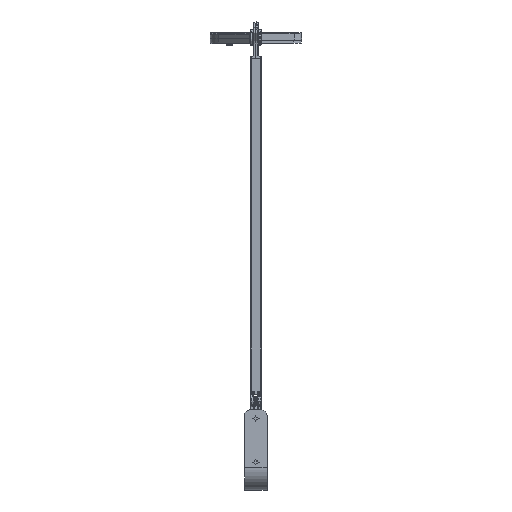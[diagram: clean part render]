
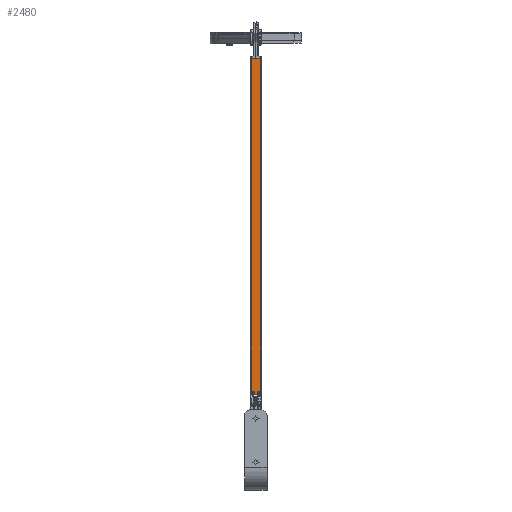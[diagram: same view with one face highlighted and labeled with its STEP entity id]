
A CAD part, left-side view. The second image highlights one B-rep face of the part: STEP entity #2480.
In plain terms, the highlighted planar face has unit normal (-1, 0, 0).
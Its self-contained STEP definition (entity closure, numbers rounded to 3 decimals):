
#2480=ADVANCED_FACE('',(#5186),#38520,.T.);
#5186=FACE_OUTER_BOUND('',#8088,.T.);
#8088=EDGE_LOOP('',(#18042,#18043,#18044,#18045));
#18042=ORIENTED_EDGE('',*,*,#26023,.F.);
#18043=ORIENTED_EDGE('',*,*,#26007,.F.);
#18044=ORIENTED_EDGE('',*,*,#26024,.F.);
#18045=ORIENTED_EDGE('',*,*,#26015,.T.);
#26007=EDGE_CURVE('',#36845,#36846,#30747,.T.);
#26015=EDGE_CURVE('',#36853,#36854,#30755,.T.);
#26023=EDGE_CURVE('',#36846,#36854,#30763,.T.);
#26024=EDGE_CURVE('',#36853,#36845,#30764,.T.);
#30747=B_SPLINE_CURVE_WITH_KNOTS('',1,(#99025,#99026),.UNSPECIFIED.,.F.,
 .F.,(2,2),(0.,12.),.UNSPECIFIED.);
#30755=B_SPLINE_CURVE_WITH_KNOTS('',1,(#99041,#99042),.UNSPECIFIED.,.F.,
 .F.,(2,2),(-12.,0.),.UNSPECIFIED.);
#30763=B_SPLINE_CURVE_WITH_KNOTS('',1,(#99057,#99058),.UNSPECIFIED.,.F.,
 .F.,(2,2),(-385.,0.),.UNSPECIFIED.);
#30764=B_SPLINE_CURVE_WITH_KNOTS('',1,(#99059,#99060),.UNSPECIFIED.,.F.,
 .F.,(2,2),(-385.,0.),.UNSPECIFIED.);
#36845=VERTEX_POINT('',#99009);
#36846=VERTEX_POINT('',#99010);
#36853=VERTEX_POINT('',#99017);
#36854=VERTEX_POINT('',#99018);
#38520=PLANE('',#41123);
#41123=AXIS2_PLACEMENT_3D('',#99001,#41990,$);
#41990=DIRECTION('',(-1.,0.,0.));
#99001=CARTESIAN_POINT('',(-102.975,-1.675,74.201));
#99009=CARTESIAN_POINT('',(-103.,11.526,497.701));
#99010=CARTESIAN_POINT('',(-103.,-0.474,497.701));
#99017=CARTESIAN_POINT('',(-102.978,11.526,112.701));
#99018=CARTESIAN_POINT('',(-102.978,-0.474,112.701));
#99025=CARTESIAN_POINT('',(-103.,11.526,497.701));
#99026=CARTESIAN_POINT('',(-103.,-0.474,497.701));
#99041=CARTESIAN_POINT('',(-102.978,11.526,112.701));
#99042=CARTESIAN_POINT('',(-102.978,-0.474,112.701));
#99057=CARTESIAN_POINT('',(-103.,-0.474,497.701));
#99058=CARTESIAN_POINT('',(-102.978,-0.474,112.701));
#99059=CARTESIAN_POINT('',(-102.978,11.526,112.701));
#99060=CARTESIAN_POINT('',(-103.,11.526,497.701));
